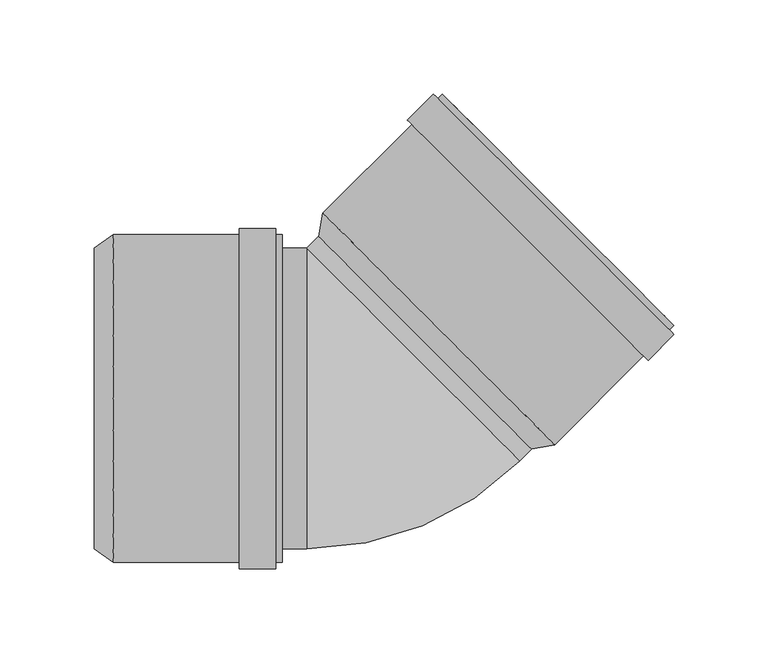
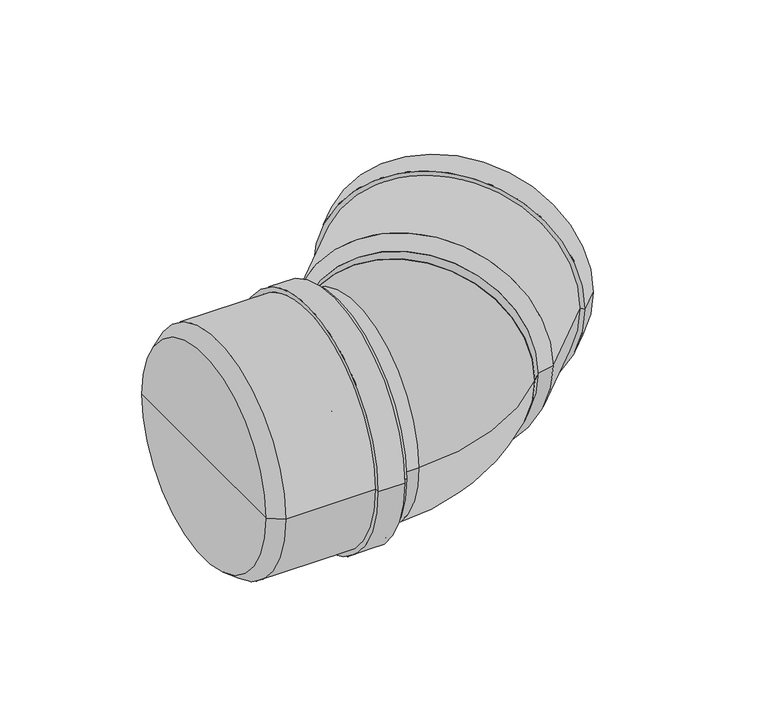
"""IFC4 building model written with IfcOpenShell, lengths in millimetres: pipe fitting geometry, pf_HTB : pf_HTB."""

from ifc_helpers import new_model, si_unit, point, frame, origin, origin_2d, place, context, project, spatial, polyline, circle_curve, ellipse_curve, trimmed, segment, composite_curve, outline, extrude, source, transform, mapped, element, save
from ifc_brep_helpers import plane_surface, cylinder_surface, revolved_surface, advanced_brep


def pipe_fitting_b959d5ee(model_context):
    return source(origin(), model_context, "Body", "SolidModel", [
        advanced_brep(
        [(86.2670273, -26.8700577, 0.0), (-26.8700577, 86.2670273, 0.0), (-24.607316, 98.5706853, 0.0), (98.5706853, -24.607316, 0.0), (29.6984848, 29.6984848, 0.0), (161.9981636, 38.8201623, 0.0), (38.8201623, 161.9981636, 0.0), (43.8406204, 156.9777054, 0.0), (156.9777054, 43.8406204, 0.0), (159.5940005, 36.4159992, 0.0), (36.4159992, 159.5940005, 0.0), (161.9981636, 34.0118362, 0.0), (34.0118362, 161.9981636, 0.0), (148.2095813, 20.2232539, 0.0), (20.2232539, 148.2095813, 0.0), (145.8054183, 22.627417, 0.0), (22.627417, 145.8054183, 0.0), (93.5502272, -19.5868578, 0.0), (-19.5868578, 93.5502272, 0.0), (36.9816847, 36.9816847, 0.0)],
        [
            (0, 1, circle_curve(frame((29.6984848, 29.6984848, 0.0), z_axis=(0.7071067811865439, 0.7071067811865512, 0.0), x_axis=(-0.7071067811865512, 0.7071067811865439, 0.0)), 80.0)),
            (1, 2),
            (2, 3, circle_curve(frame((36.9816847, 36.9816847, 0.0), z_axis=(-0.7071067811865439, -0.7071067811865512, 0.0), x_axis=(-0.7071067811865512, 0.7071067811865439, 0.0)), 87.1)),
            (3, 0),
            (1, 0, circle_curve(frame((29.6984848, 29.6984848, 0.0), z_axis=(0.7071067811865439, 0.7071067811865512, 0.0), x_axis=(-0.7071067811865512, 0.7071067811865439, 0.0)), 80.0)),
            (3, 2, circle_curve(frame((36.9816847, 36.9816847, 0.0), z_axis=(-0.7071067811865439, -0.7071067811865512, 0.0), x_axis=(-0.7071067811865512, 0.7071067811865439, 0.0)), 87.1)),
            (4, 1),
            (0, 4),
            (5, 6, circle_curve(frame((100.4091629, 100.4091629, 0.0), z_axis=(0.7071067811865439, 0.7071067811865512, 0.0), x_axis=(-0.7071067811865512, 0.7071067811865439, 0.0)), 87.1)),
            (6, 7),
            (7, 8, circle_curve(frame((100.4091629, 100.4091629, 0.0), z_axis=(-0.7071067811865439, -0.7071067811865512, 0.0), x_axis=(-0.7071067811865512, 0.7071067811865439, 0.0)), 80.0)),
            (8, 5),
            (6, 5, circle_curve(frame((100.4091629, 100.4091629, 0.0), z_axis=(0.7071067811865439, 0.7071067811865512, 0.0), x_axis=(-0.7071067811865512, 0.7071067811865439, 0.0)), 87.1)),
            (8, 7, circle_curve(frame((100.4091629, 100.4091629, 0.0), z_axis=(-0.7071067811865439, -0.7071067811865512, 0.0), x_axis=(-0.7071067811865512, 0.7071067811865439, 0.0)), 80.0)),
            (9, 10, circle_curve(frame((98.0049999, 98.0049999, 0.0), z_axis=(0.7071067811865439, 0.7071067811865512, 0.0), x_axis=(-0.7071067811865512, 0.7071067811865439, 0.0)), 87.1)),
            (10, 6),
            (5, 9),
            (10, 9, circle_curve(frame((98.0049999, 98.0049999, 0.0), z_axis=(0.7071067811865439, 0.7071067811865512, 0.0), x_axis=(-0.7071067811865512, 0.7071067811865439, 0.0)), 87.1)),
            (11, 12, circle_curve(frame((98.0049999, 98.0049999, 0.0), z_axis=(0.7071067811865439, 0.7071067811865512, 0.0), x_axis=(-0.7071067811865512, 0.7071067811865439, 0.0)), 90.5)),
            (12, 10),
            (9, 11),
            (12, 11, circle_curve(frame((98.0049999, 98.0049999, 0.0), z_axis=(0.7071067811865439, 0.7071067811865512, 0.0), x_axis=(-0.7071067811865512, 0.7071067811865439, 0.0)), 90.5)),
            (13, 14, circle_curve(frame((84.2164176, 84.2164176, 0.0), z_axis=(0.7071067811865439, 0.7071067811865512, 0.0), x_axis=(-0.7071067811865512, 0.7071067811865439, 0.0)), 90.5)),
            (14, 12),
            (11, 13),
            (14, 13, circle_curve(frame((84.2164176, 84.2164176, 0.0), z_axis=(0.7071067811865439, 0.7071067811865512, 0.0), x_axis=(-0.7071067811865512, 0.7071067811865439, 0.0)), 90.5)),
            (15, 16, circle_curve(frame((84.2164176, 84.2164176, 0.0), z_axis=(0.7071067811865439, 0.7071067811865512, 0.0), x_axis=(-0.7071067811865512, 0.7071067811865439, 0.0)), 87.1)),
            (16, 14),
            (13, 15),
            (16, 15, circle_curve(frame((84.2164176, 84.2164176, 0.0), z_axis=(0.7071067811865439, 0.7071067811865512, 0.0), x_axis=(-0.7071067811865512, 0.7071067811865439, 0.0)), 87.1)),
            (2, 16),
            (15, 3),
            (17, 18, circle_curve(frame((36.9816847, 36.9816847, 0.0), z_axis=(0.7071067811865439, 0.7071067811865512, 0.0), x_axis=(-0.7071067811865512, 0.7071067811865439, 0.0)), 80.0)),
            (18, 19),
            (19, 17),
            (18, 17, circle_curve(frame((36.9816847, 36.9816847, 0.0), z_axis=(0.7071067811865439, 0.7071067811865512, 0.0), x_axis=(-0.7071067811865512, 0.7071067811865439, 0.0)), 80.0)),
            (7, 18),
            (17, 8),
        ],
        [
            revolved_surface(polyline([(-24.607316, 98.5706853, 0.0), (-26.8700577, 86.2670273, 0.0)]), (29.6984848, 29.6984848, 0.0), (-0.7071067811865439, -0.7071067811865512, 0.0)),
            plane_surface(frame((29.6984848, 29.6984848, 0.0), z_axis=(-0.7071067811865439, -0.7071067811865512, 0.0), x_axis=(-0.7071067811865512, 0.7071067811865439, 0.0))),
            plane_surface(frame((100.4091629, 100.4091629, 0.0), z_axis=(0.7071067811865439, 0.7071067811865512, 0.0), x_axis=(-0.7071067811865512, 0.7071067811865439, 0.0))),
            cylinder_surface(frame((29.6984848, 29.6984848, 0.0), z_axis=(-0.7071067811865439, -0.7071067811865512, 0.0), x_axis=(-0.7071067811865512, 0.7071067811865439, 0.0)), 87.1),
            plane_surface(frame((98.0049999, 98.0049999, 0.0), z_axis=(0.7071067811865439, 0.7071067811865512, 0.0), x_axis=(-0.7071067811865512, 0.7071067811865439, 0.0))),
            cylinder_surface(frame((29.6984848, 29.6984848, 0.0), z_axis=(-0.7071067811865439, -0.7071067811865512, 0.0), x_axis=(-0.7071067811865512, 0.7071067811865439, 0.0)), 90.5),
            plane_surface(frame((84.2164176, 84.2164176, 0.0), z_axis=(-0.7071067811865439, -0.7071067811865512, 0.0), x_axis=(-0.7071067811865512, 0.7071067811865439, 0.0))),
            plane_surface(frame((36.9816847, 36.9816847, 0.0), z_axis=(0.7071067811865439, 0.7071067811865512, 0.0), x_axis=(-0.7071067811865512, 0.7071067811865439, 0.0))),
            revolved_surface(polyline([(-19.586857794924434, 93.55022719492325, 0.0), (43.84062040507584, 156.97770539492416, 0.0)]), (29.6984848, 29.6984848, 0.0), (-0.7071067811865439, -0.7071067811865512, 0.0)),
        ],
        [
            (0, [[1, 2, 3, 4]]),
            (0, [[5, -4, 6, -2]]),
            (1, [[7, -1, 8]]),
            (1, [[-8, -5, -7]]),
            (2, [[9, 10, 11, 12]]),
            (2, [[13, -12, 14, -10]]),
            (3, [[15, 16, -9, 17]]),
            (3, [[18, -17, -13, -16]]),
            (4, [[19, 20, -15, 21]]),
            (4, [[22, -21, -18, -20]]),
            (5, [[23, 24, -19, 25]]),
            (5, [[26, -25, -22, -24]]),
            (6, [[27, 28, -23, 29]]),
            (6, [[30, -29, -26, -28]]),
            (3, [[-3, 31, -27, 32]]),
            (3, [[-6, -32, -30, -31]]),
            (7, [[33, 34, 35]]),
            (7, [[36, -35, -34]]),
            (8, [[-11, 37, -33, 38]]),
            (8, [[-14, -38, -36, -37]]),
        ],
    ),
        advanced_brep(
        [(-146.3, -80.0, 0.0), (-146.3, 80.0, 0.0), (-136.0, 87.1, 0.0), (-136.0, -87.1, 0.0), (-146.3, 0.0, 0.0), (-46.3, -87.1, 0.0), (-46.3, 87.1, 0.0), (-46.3, 80.0, 0.0), (-46.3, -80.0, 0.0), (-49.7, -87.1, 0.0), (-49.7, 87.1, 0.0), (-49.7, -90.5, 0.0), (-49.7, 90.5, 0.0), (-69.2, -90.5, 0.0), (-69.2, 90.5, 0.0), (-69.2, -87.1, 0.0), (-69.2, 87.1, 0.0), (-136.0, -80.0, 0.0), (-136.0, 80.0, 0.0), (-136.0, 0.0, 0.0)],
        [
            (0, 1, circle_curve(frame((-146.3, 0.0, 0.0), z_axis=(1.0, 0.0, 0.0), x_axis=(0.0, 1.0, 0.0)), 80.0)),
            (1, 2),
            (2, 3, circle_curve(frame((-136.0, 0.0, 0.0), z_axis=(-1.0, 0.0, 0.0), x_axis=(0.0, 1.0, 0.0)), 87.1)),
            (3, 0),
            (1, 0, circle_curve(frame((-146.3, 0.0, 0.0), z_axis=(1.0, 0.0, 0.0), x_axis=(0.0, 1.0, 0.0)), 80.0)),
            (3, 2, circle_curve(frame((-136.0, 0.0, 0.0), z_axis=(-1.0, 0.0, 0.0), x_axis=(0.0, 1.0, 0.0)), 87.1)),
            (4, 1),
            (0, 4),
            (5, 6, circle_curve(frame((-46.3, 0.0, 0.0), z_axis=(1.0, 0.0, 0.0), x_axis=(0.0, 1.0, 0.0)), 87.1)),
            (6, 7),
            (7, 8, circle_curve(frame((-46.3, 0.0, 0.0), z_axis=(-1.0, 0.0, 0.0), x_axis=(0.0, 1.0, 0.0)), 80.0)),
            (8, 5),
            (6, 5, circle_curve(frame((-46.3, 0.0, 0.0), z_axis=(1.0, 0.0, 0.0), x_axis=(0.0, 1.0, 0.0)), 87.1)),
            (8, 7, circle_curve(frame((-46.3, 0.0, 0.0), z_axis=(-1.0, 0.0, 0.0), x_axis=(0.0, 1.0, 0.0)), 80.0)),
            (9, 10, circle_curve(frame((-49.7, 0.0, 0.0), z_axis=(1.0, 0.0, 0.0), x_axis=(0.0, 1.0, 0.0)), 87.1)),
            (10, 6),
            (5, 9),
            (10, 9, circle_curve(frame((-49.7, 0.0, 0.0), z_axis=(1.0, 0.0, 0.0), x_axis=(0.0, 1.0, 0.0)), 87.1)),
            (11, 12, circle_curve(frame((-49.7, 0.0, 0.0), z_axis=(1.0, 0.0, 0.0), x_axis=(0.0, 1.0, 0.0)), 90.5)),
            (12, 10),
            (9, 11),
            (12, 11, circle_curve(frame((-49.7, 0.0, 0.0), z_axis=(1.0, 0.0, 0.0), x_axis=(0.0, 1.0, 0.0)), 90.5)),
            (13, 14, circle_curve(frame((-69.2, 0.0, 0.0), z_axis=(1.0, 0.0, 0.0), x_axis=(0.0, 1.0, 0.0)), 90.5)),
            (14, 12),
            (11, 13),
            (14, 13, circle_curve(frame((-69.2, 0.0, 0.0), z_axis=(1.0, 0.0, 0.0), x_axis=(0.0, 1.0, 0.0)), 90.5)),
            (15, 16, circle_curve(frame((-69.2, 0.0, 0.0), z_axis=(1.0, 0.0, 0.0), x_axis=(0.0, 1.0, 0.0)), 87.1)),
            (16, 14),
            (13, 15),
            (16, 15, circle_curve(frame((-69.2, 0.0, 0.0), z_axis=(1.0, 0.0, 0.0), x_axis=(0.0, 1.0, 0.0)), 87.1)),
            (2, 16),
            (15, 3),
            (17, 18, circle_curve(frame((-136.0, 0.0, 0.0), z_axis=(1.0, 0.0, 0.0), x_axis=(0.0, 1.0, 0.0)), 80.0)),
            (18, 19),
            (19, 17),
            (18, 17, circle_curve(frame((-136.0, 0.0, 0.0), z_axis=(1.0, 0.0, 0.0), x_axis=(0.0, 1.0, 0.0)), 80.0)),
            (7, 18),
            (17, 8),
        ],
        [
            revolved_surface(polyline([(-136.0, 87.1, 0.0), (-146.3, 80.0, 0.0)]), (-146.3, 0.0, 0.0), (-1.0, 0.0, 0.0)),
            plane_surface(frame((-146.3, 0.0, 0.0), z_axis=(-1.0, 0.0, 0.0), x_axis=(0.0, 1.0, 0.0))),
            plane_surface(frame((-46.3, 0.0, 0.0), z_axis=(1.0, 0.0, 0.0), x_axis=(0.0, 1.0, 0.0))),
            cylinder_surface(frame((-146.3, 0.0, 0.0), z_axis=(-1.0, 0.0, 0.0), x_axis=(0.0, 1.0, 0.0)), 87.1),
            plane_surface(frame((-49.7, 0.0, 0.0), z_axis=(1.0, 0.0, 0.0), x_axis=(0.0, 1.0, 0.0))),
            cylinder_surface(frame((-146.3, 0.0, 0.0), z_axis=(-1.0, 0.0, 0.0), x_axis=(0.0, 1.0, 0.0)), 90.5),
            plane_surface(frame((-69.2, 0.0, 0.0), z_axis=(-1.0, 0.0, 0.0), x_axis=(0.0, 1.0, 0.0))),
            plane_surface(frame((-136.0, 0.0, 0.0), z_axis=(1.0, 0.0, 0.0), x_axis=(0.0, 1.0, 0.0))),
            revolved_surface(polyline([(-136.0, 80.0, 0.0), (-46.3, 80.0, 0.0)]), (-146.3, 0.0, 0.0), (-1.0, 0.0, 0.0)),
        ],
        [
            (0, [[1, 2, 3, 4]]),
            (0, [[5, -4, 6, -2]]),
            (1, [[7, -1, 8]]),
            (1, [[-8, -5, -7]]),
            (2, [[9, 10, 11, 12]]),
            (2, [[13, -12, 14, -10]]),
            (3, [[15, 16, -9, 17]]),
            (3, [[18, -17, -13, -16]]),
            (4, [[19, 20, -15, 21]]),
            (4, [[22, -21, -18, -20]]),
            (5, [[23, 24, -19, 25]]),
            (5, [[26, -25, -22, -24]]),
            (6, [[27, 28, -23, 29]]),
            (6, [[30, -29, -26, -28]]),
            (3, [[-3, 31, -27, 32]]),
            (3, [[-6, -32, -30, -31]]),
            (7, [[33, 34, 35]]),
            (7, [[36, -35, -34]]),
            (8, [[-11, 37, -33, 38]]),
            (8, [[-14, -38, -36, -37]]),
        ],
    ),
        extrude(outline(composite_curve([segment(trimmed(circle_curve(origin_2d(), 80.0), [point((0.0, -80.0))], [point((0.0, 80.0))], False, "CARTESIAN"), True, "CONTINUOUS"), segment(trimmed(circle_curve(origin_2d(), 80.0), [point((0.0, 80.0))], [point((0.0, -80.0))], False, "CARTESIAN"), True, "CONTINUOUS")], self_intersect=False)), frame((23.4314575, 23.4314575, 0.0), z_axis=(0.707106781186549, 0.7071067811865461, 0.0), x_axis=(0.0, 0.0, 1.0)), (0.0, 0.0, 1.0), 19.162915),
        extrude(outline(composite_curve([segment(trimmed(circle_curve(origin_2d(), 80.0), [point((-80.0, 0.0))], [point((80.0, 0.0))], False, "CARTESIAN"), True, "CONTINUOUS"), segment(trimmed(circle_curve(origin_2d(), 80.0), [point((80.0, 0.0))], [point((-80.0, 0.0))], False, "CARTESIAN"), True, "CONTINUOUS")], self_intersect=False)), frame((-136.0, 0.0, 0.0), z_axis=(1.0, 0.0, 0.0), x_axis=(0.0, 1.0, 0.0)), (0.0, 0.0, 1.0), 102.862915),
        advanced_brep(
        [(-33.137085, -80.0, 0.0), (-33.137085, 80.0, 0.0), (80.0, -33.137085, 0.0)],
        [
            (0, 1, circle_curve(frame((-33.137085, 0.0, 0.0), z_axis=(-1.0, 0.0, 0.0), x_axis=(0.0, 1.0, 0.0)), 80.0)),
            (1, 0, circle_curve(frame((-33.137085, 0.0, 0.0), z_axis=(-1.0, 0.0, 0.0), x_axis=(0.0, 1.0, 0.0)), 80.0)),
            (2, 1, circle_curve(frame((23.4314575, 23.4314575, 0.0), z_axis=(0.7071067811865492, 0.7071067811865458, 0.0), x_axis=(-0.7071067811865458, 0.7071067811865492, 0.0)), 80.0)),
            (1, 2, circle_curve(frame((23.4314575, 23.4314575, 0.0), z_axis=(0.7071067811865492, 0.7071067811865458, 0.0), x_axis=(-0.7071067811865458, 0.7071067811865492, 0.0)), 80.0)),
            (2, 0, circle_curve(frame((-33.137085, 80.0, 0.0), z_axis=(0.0, 0.0, -1.0), x_axis=(0.0, -1.0, 0.0)), 160.0)),
        ],
        [
            plane_surface(frame((-33.137085, 80.0, -14.8), z_axis=(-1.0, 0.0, 0.0), x_axis=(0.0, -1.0, 0.0))),
            plane_surface(frame((-33.137085, 80.0, -14.8), z_axis=(0.7071067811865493, 0.7071067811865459, 0.0), x_axis=(0.7071067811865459, -0.7071067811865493, 0.0))),
            revolved_surface(trimmed(ellipse_curve(frame((-33.137085, 0.0, 0.0), z_axis=(1.0, 0.0, 0.0), x_axis=(0.0, 1.0, 0.0)), 80.0, 80.0), [point((-33.137085, -80.0, 0.0))], [point((-33.137085, 80.0, 0.0))], True, "CARTESIAN"), (-33.137085, 80.0, -14.8), (0.0, 0.0, -1.0)),
            revolved_surface(trimmed(ellipse_curve(frame((-33.137085, 0.0, 0.0), z_axis=(1.0, 0.0, 0.0), x_axis=(0.0, 1.0, 0.0)), 80.0, 80.0), [point((-33.137085, 80.0, 0.0))], [point((-33.137085, -80.0, 0.0))], True, "CARTESIAN"), (-33.137085, 80.0, -14.8), (0.0, 0.0, -1.0)),
        ],
        [
            (0, [[1, 2]]),
            (1, [[3, 4]]),
            (2, [[5, -2, -3]]),
            (3, [[-1, -5, -4]]),
        ],
    ),
    ])


if __name__ == "__main__":
    model = new_model("IFC4")
    model_context = context("Model", 3, world=origin())
    ifc_project = project(units=[si_unit("LENGTHUNIT", "METRE", prefix="MILLI")], contexts=[model_context])
    site = spatial("IfcSite", under=ifc_project)
    building = spatial("IfcBuilding", under=site)
    placement = place(None, origin())
    pipe_fitting_shape = pipe_fitting_b959d5ee(model_context)
    element("IfcPipeFitting", 1, ObjectType="pf_HTB : pf_HTB", at=placement, inside=building, context=model_context, shape_type="MappedRepresentation", body=[
        mapped(pipe_fitting_shape, transform((0.0, 0.0, 0.0), x_axis=(1.0, 0.0, 0.0), y_axis=(0.0, 1.0, 0.0), z_axis=(0.0, 0.0, 1.0))),
    ])
    save(model, "model.ifc")
